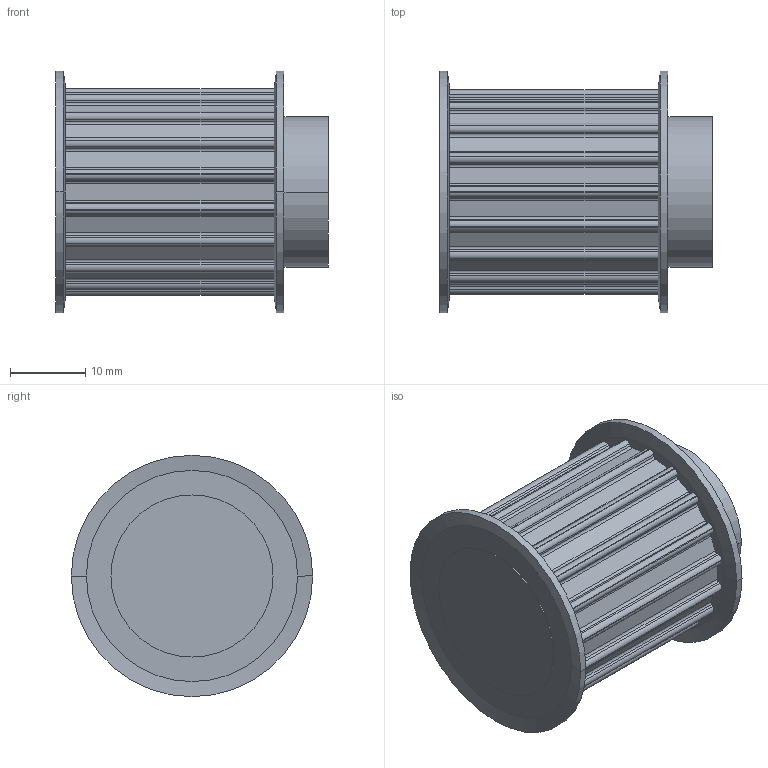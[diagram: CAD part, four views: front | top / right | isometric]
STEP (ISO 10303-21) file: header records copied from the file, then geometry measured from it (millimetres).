
FILE_DESCRIPTION( ( '' ), '1' );
FILE_NAME( 'C:/Users/Stangenbergd/Documents/CAD_Step/1/16641800.stp', '2021-10-19T09:37:48', ( '' ), ( '' ), ' ', ' ', ' ' );
FILE_SCHEMA( ( 'CONFIG_CONTROL_DESIGN' ) );
Length unit declared in the file: millimetre
Products named in the file (1): 1
Bounding box: 36.13 x 32 x 32 mm (x, y, z)
Volume: 18242.5 mm3; surface area: 5566.2 mm2
Topology: 1 solids, 1 shells, 169 faces, 478 edges, 316 vertices
Faces by surface type: cylinder 100, plane 61, cone 8
Entity records: 5600 total; most frequent: DIRECTION 1026, CARTESIAN_POINT 964, ORIENTED_EDGE 956, EDGE_CURVE 478, AXIS2_PLACEMENT_3D 378, VERTEX_POINT 316, LINE 270, VECTOR 270
